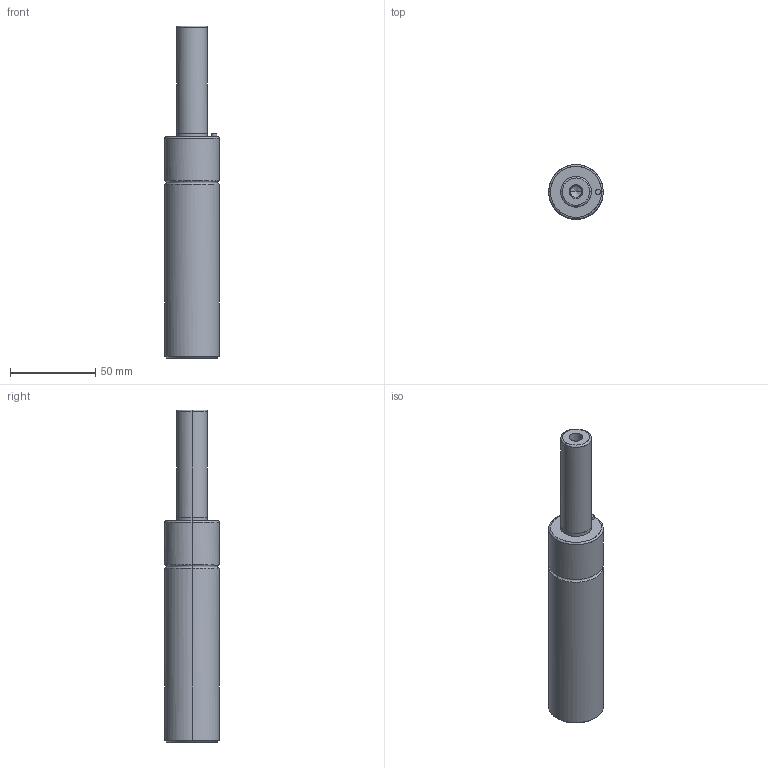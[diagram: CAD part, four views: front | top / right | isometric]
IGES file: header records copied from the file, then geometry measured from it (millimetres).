
Global section: file name: E:\UnigraphicsGraphicData\MISUMI_PRESS-PARTS\IGES\3d_gsm32-63_03923_r00.igs; native system: NX V5.0; preprocessor: UGS NX IGES V5.0; author: MISUMI; date: 20110105.160811; units: millimetre
Bounding box: 32 x 31.97 x 195 mm (x, y, z)
Surface area: 19210.7 mm2 (no closed solid volume)
Topology: 0 solids, 0 shells, 50 faces, 328 edges, 320 vertices
Faces by surface type: bspline 50
